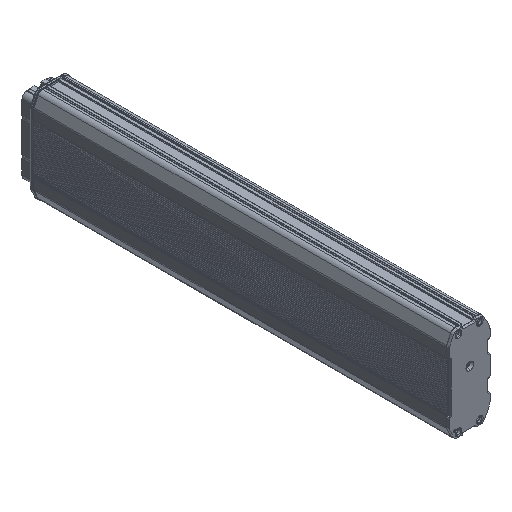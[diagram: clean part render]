
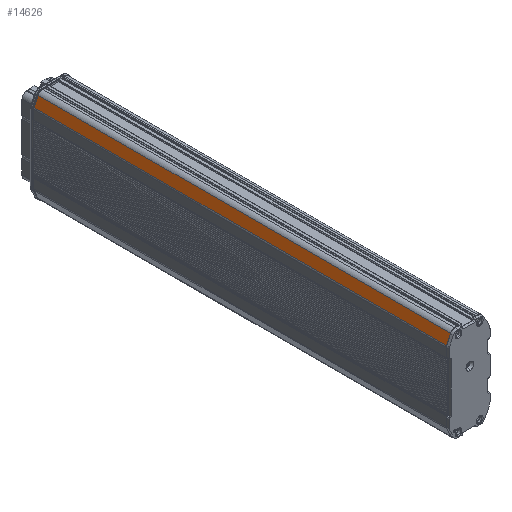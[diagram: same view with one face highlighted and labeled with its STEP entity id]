
A CAD part, isometric view. The second image highlights one B-rep face of the part: STEP entity #14626.
In plain terms, the highlighted planar face has unit normal (-0.906, 0, 0.423).
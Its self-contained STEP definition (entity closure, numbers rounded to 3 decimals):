
#7909 = CARTESIAN_POINT ( 'NONE',  ( -29.663, 0., 53.086 ) ) ;
#7910 = DIRECTION ( 'NONE',  ( 0.423, 0., 0.906 ) ) ;
#7911 = VECTOR ( 'NONE', #7910, 1000. ) ;
#7912 = CARTESIAN_POINT ( 'NONE',  ( -29.663, 0., 53.086 ) ) ;
#7913 = LINE ( 'NONE', #7912, #7911 ) ;
#7914 = CARTESIAN_POINT ( 'NONE',  ( -23.664, 0., 65.95 ) ) ;
#12403 = CARTESIAN_POINT ( 'NONE',  ( -23.664, 612., 65.95 ) ) ;
#12404 = DIRECTION ( 'NONE',  ( 0.423, 0., 0.906 ) ) ;
#12405 = VECTOR ( 'NONE', #12404, 1000. ) ;
#12406 = CARTESIAN_POINT ( 'NONE',  ( -29.663, 612., 53.086 ) ) ;
#12407 = LINE ( 'NONE', #12406, #12405 ) ;
#12408 = CARTESIAN_POINT ( 'NONE',  ( -29.663, 612., 53.086 ) ) ;
#14547 = EDGE_LOOP ( 'NONE', ( #14548, #14549, #14550, #14552 ) ) ;
#14548 = ORIENTED_EDGE ( 'NONE', *, *, #14624, .T. ) ;
#14549 = ORIENTED_EDGE ( 'NONE', *, *, #19758, .T. ) ;
#14550 = ORIENTED_EDGE ( 'NONE', *, *, #14551, .F. ) ;
#14551 = EDGE_CURVE ( 'NONE', #22334, #19756, #24694, .T. ) ;
#14552 = ORIENTED_EDGE ( 'NONE', *, *, #22333, .F. ) ;
#14624 = EDGE_CURVE ( 'NONE', #22331, #19759, #24794, .T. ) ;
#14626 = ADVANCED_FACE ( 'NONE', ( #24786 ), #24785, .F. ) ;
#19756 = VERTEX_POINT ( 'NONE', #7914 ) ;
#19758 = EDGE_CURVE ( 'NONE', #19759, #19756, #7913, .T. ) ;
#19759 = VERTEX_POINT ( 'NONE', #7909 ) ;
#22331 = VERTEX_POINT ( 'NONE', #12408 ) ;
#22333 = EDGE_CURVE ( 'NONE', #22331, #22334, #12407, .T. ) ;
#22334 = VERTEX_POINT ( 'NONE', #12403 ) ;
#24691 = DIRECTION ( 'NONE',  ( 0., -1., 0. ) ) ;
#24692 = VECTOR ( 'NONE', #24691, 1000. ) ;
#24693 = CARTESIAN_POINT ( 'NONE',  ( -23.664, 612., 65.95 ) ) ;
#24694 = LINE ( 'NONE', #24693, #24692 ) ;
#24781 = DIRECTION ( 'NONE',  ( -0.423, 0., -0.906 ) ) ;
#24782 = DIRECTION ( 'NONE',  ( 0.906, 0., -0.423 ) ) ;
#24783 = CARTESIAN_POINT ( 'NONE',  ( -29.663, 612., 53.086 ) ) ;
#24784 = AXIS2_PLACEMENT_3D ( 'NONE', #24783, #24782, #24781 ) ;
#24785 = PLANE ( 'NONE',  #24784 ) ;
#24786 = FACE_OUTER_BOUND ( 'NONE', #14547, .T. ) ;
#24787 = DIRECTION ( 'NONE',  ( 0., -1., 0. ) ) ;
#24788 = VECTOR ( 'NONE', #24787, 1000. ) ;
#24789 = CARTESIAN_POINT ( 'NONE',  ( -29.663, 612., 53.086 ) ) ;
#24794 = LINE ( 'NONE', #24789, #24788 ) ;
